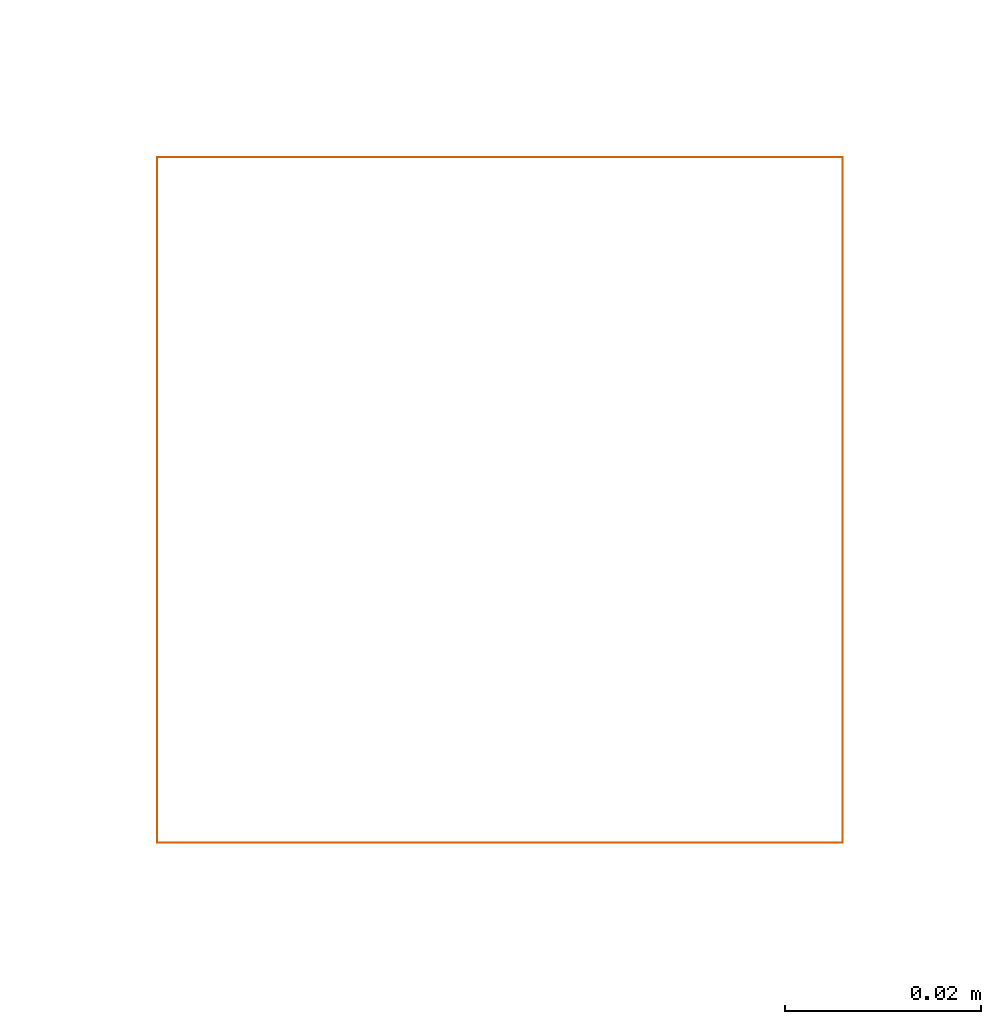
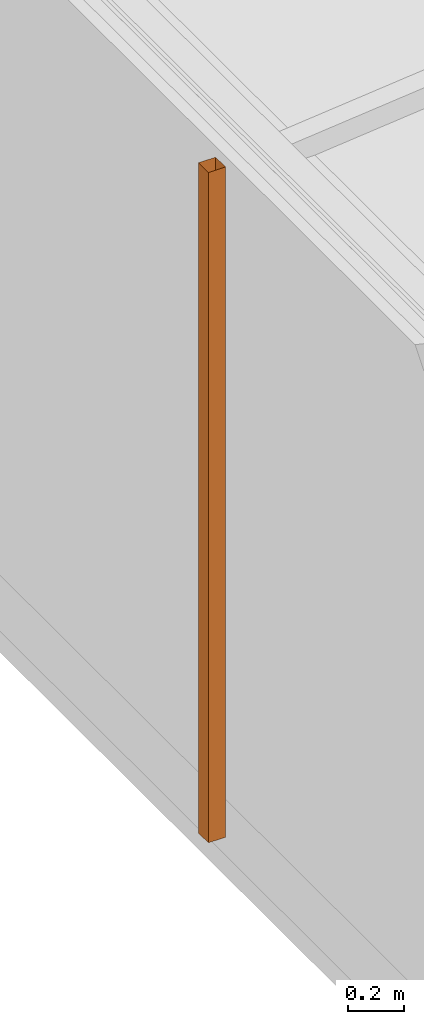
# One storey, part 74 of 112: 1 proxy.
"""IFC2X3 building model written with IfcOpenShell, lengths in millimetres."""

import ifcopenshell
import ifcopenshell.guid

model = None  # the IFC model being written
_history = None  # IfcOwnerHistory: only IFC2X3 demands one
_inside = {}  # id of a spatial element -> (the spatial element, [elements in it])
_under = {}  # id of a project, library or spatial element -> (it, [spatial elements below it])
_declared = {}  # id of a project -> (the project, [libraries it declares])
_typed = {}  # id of a type object -> (the type object, [elements of that type])
_made_of = {}  # id of a material, layer set ... -> (it, [elements and type objects made of it])


def new_model(schema):
    """Start an empty IFC model of exactly this schema.

    Asked for "IFC4X3", IfcOpenShell would pick the latest addendum, in which some entities
    have other attributes; the version numbers below select the first issue.
    IFC2X3 requires an IfcOwnerHistory on every rooted entity: one is made here for all.
    """
    global model, _history
    if schema == "IFC4X3":
        model = ifcopenshell.file(schema_version=(4, 3, 0, 0))
    else:
        model = ifcopenshell.file(schema=schema)
    _inside.clear()
    _under.clear()
    _declared.clear()
    _typed.clear()
    _made_of.clear()
    _history = None
    if model.schema == "IFC2X3":
        org = make("IfcOrganization", Name="unknown")
        user = make(
            "IfcPersonAndOrganization",
            ThePerson=make("IfcPerson", FamilyName="unknown"),
            TheOrganization=org,
        )
        app = make(
            "IfcApplication",
            ApplicationDeveloper=org,
            Version="unknown",
            ApplicationFullName="unknown",
            ApplicationIdentifier="unknown",
        )
        _history = make(
            "IfcOwnerHistory",
            OwningUser=user,
            OwningApplication=app,
            ChangeAction="ADDED",
            CreationDate=0,
        )
    return model


def make(cls, **values):
    """One entity of the class cls with the attributes given. An attribute that is None is left unset."""
    return model.create_entity(
        cls, **{name: value for name, value in values.items() if value is not None}
    )


def entity(cls, *values):
    """Any entity or typed value of the class cls, its attributes in the order of the schema. None: left unset."""
    e = model.create_entity(cls)
    for i, value in enumerate(values):
        if value is not None:
            e[i] = value
    return e


def rooted(cls, **values):
    """An entity with a GlobalId (a new one), such as an element, a storey or a relation."""
    return make(cls, GlobalId=ifcopenshell.guid.new(), OwnerHistory=_history, **values)


def si_unit(unit_type, name, prefix=None):
    """IfcSIUnit, for example si_unit("LENGTHUNIT", "METRE", prefix="MILLI")."""
    return make("IfcSIUnit", UnitType=unit_type, Prefix=prefix, Name=name)


def converted_unit(unit_type, name, factor, base, dimensions=None, offset=None):
    """IfcConversionBasedUnit, such as the inch: factor (a typed value) times the base unit."""
    return make(
        "IfcConversionBasedUnit"
        if offset is None
        else "IfcConversionBasedUnitWithOffset",
        ConversionOffset=offset,
        Dimensions=None
        if dimensions is None
        else entity("IfcDimensionalExponents", *dimensions),
        UnitType=unit_type,
        Name=name,
        ConversionFactor=make(
            "IfcMeasureWithUnit", ValueComponent=factor, UnitComponent=base
        ),
    )


def derived_unit(unit_type, elements):
    """IfcDerivedUnit: a product of units, each with its exponent."""
    return make(
        "IfcDerivedUnit",
        Elements=[
            make("IfcDerivedUnitElement", Unit=unit, Exponent=power)
            for unit, power in elements
        ],
        UnitType=unit_type,
    )


def money_unit(currency):
    """IfcMonetaryUnit."""
    return make("IfcMonetaryUnit", Currency=currency)


def assignment(units):
    """IfcUnitAssignment: the units of a project."""
    return None if units is None else make("IfcUnitAssignment", Units=units)


def point(xyz):
    """IfcCartesianPoint."""
    return None if xyz is None else make("IfcCartesianPoint", Coordinates=xyz)


def direction(xyz):
    """IfcDirection."""
    return None if xyz is None else make("IfcDirection", DirectionRatios=xyz)


def frame(location, z_axis=None, x_axis=None):
    """IfcAxis2Placement3D, a coordinate frame: its origin and axes. An axis left out is left unset."""
    return make(
        "IfcAxis2Placement3D",
        Location=point(location),
        Axis=direction(z_axis),
        RefDirection=direction(x_axis),
    )


def origin_with_axes():
    """The frame at (0, 0, 0) with the z axis (0, 0, 1) and the x axis (1, 0, 0) written out."""
    return frame((0.0, 0.0, 0.0), z_axis=(0.0, 0.0, 1.0), x_axis=(1.0, 0.0, 0.0))


def place(relative_to, where):
    """IfcLocalPlacement: puts the frame where relative to a parent placement (None: the world)."""
    return make(
        "IfcLocalPlacement", PlacementRelTo=relative_to, RelativePlacement=where
    )


def context(
    kind, dimensions, precision=None, world=None, true_north=None, identifier=None
):
    """IfcGeometricRepresentationContext, for example the 3D "Model" context."""
    return make(
        "IfcGeometricRepresentationContext",
        ContextIdentifier=identifier,
        ContextType=kind,
        CoordinateSpaceDimension=dimensions,
        Precision=precision,
        WorldCoordinateSystem=world,
        TrueNorth=true_north,
    )


def subcontext(parent, identifier, kind, view, scale=None):
    """IfcGeometricRepresentationSubContext, for example "Body" below "Model"."""
    return make(
        "IfcGeometricRepresentationSubContext",
        ContextIdentifier=identifier,
        ContextType=kind,
        ParentContext=parent,
        TargetScale=scale,
        TargetView=view,
    )


def project(units=None, contexts=None):
    """IfcProject with its units and contexts."""
    return rooted(
        "IfcProject",
        Name="project",
        RepresentationContexts=contexts,
        UnitsInContext=assignment(units),
    )


def spatial(cls, under=None, at=None, **own):
    """A site, building, storey or space (cls), placed at a placement, below another one or the project."""
    s = rooted(cls, ObjectPlacement=at, **own)
    if under is not None:
        _under.setdefault(under.id(), (under, []))[1].append(s)
    return s


def faces_of(points, faces, orient=None, outer=None):
    """IfcFace entities. A face is a list of loops; a loop is a list of indices into points, from 0.

    orient and outer hold one flag for each loop. By default every Orientation is true, the
    first loop of a face is its IfcFaceOuterBound and the others are IfcFaceBound.
    """
    made = []
    for i, loops in enumerate(faces):
        bounds = []
        for j, loop in enumerate(loops):
            is_outer = j == 0 if outer is None else outer[i][j]
            bounds.append(
                make(
                    "IfcFaceOuterBound" if is_outer else "IfcFaceBound",
                    Bound=make("IfcPolyLoop", Polygon=[points[k] for k in loop]),
                    Orientation=True if orient is None else orient[i][j],
                )
            )
        made.append(make("IfcFace", Bounds=bounds))
    return made


def open_shell(faces, orient=None, outer=None):
    """The faces of one IfcOpenShell. surface_model builds it on its shared points."""
    return ("IfcOpenShell", faces, orient, outer)


def surface_model(cls, points, shells):
    """IfcFaceBasedSurfaceModel or IfcShellBasedSurfaceModel (cls): surfaces that need not close."""
    shared = [point(p) for p in points]
    made = [make(c, CfsFaces=faces_of(shared, fs, o, b)) for c, fs, o, b in shells]
    if cls == "IfcFaceBasedSurfaceModel":
        return make(cls, FbsmFaces=made)
    return make(cls, SbsmBoundary=made)


def shape(context_of_items, identifier, shape_type, items):
    """IfcShapeRepresentation: the items that make up one representation, for example the "Body"."""
    return make(
        "IfcShapeRepresentation",
        ContextOfItems=context_of_items,
        RepresentationIdentifier=identifier,
        RepresentationType=shape_type,
        Items=items,
    )


def source(mapping_origin, context_of_items, identifier, shape_type, items):
    """IfcRepresentationMap: a shape defined once, which mapped items show again and again."""
    return make(
        "IfcRepresentationMap",
        MappingOrigin=mapping_origin,
        MappedRepresentation=shape(context_of_items, identifier, shape_type, items),
    )


def transform(
    local_origin,
    x_axis=None,
    y_axis=None,
    z_axis=None,
    scale=None,
    scale2=None,
    scale3=None,
    uniform=True,
):
    """IfcCartesianTransformationOperator3D, or its non-uniform kind. x_axis, y_axis, z_axis: its Axis1, 2, 3."""
    if uniform:
        return make(
            "IfcCartesianTransformationOperator3D",
            Axis1=direction(x_axis),
            Axis2=direction(y_axis),
            LocalOrigin=point(local_origin),
            Scale=scale,
            Axis3=direction(z_axis),
        )
    return make(
        "IfcCartesianTransformationOperator3DnonUniform",
        Axis1=direction(x_axis),
        Axis2=direction(y_axis),
        LocalOrigin=point(local_origin),
        Scale=scale,
        Axis3=direction(z_axis),
        Scale2=scale2,
        Scale3=scale3,
    )


def mapped(mapping_source, mapping_target):
    """IfcMappedItem: shows the shape of a source again, moved by a transform."""
    return make(
        "IfcMappedItem", MappingSource=mapping_source, MappingTarget=mapping_target
    )


def made_of(thing, what):
    """Note that an element or type object is made of a material, layer set ...; save() writes the relation."""
    if what is not None:
        _made_of.setdefault(what.id(), (what, []))[1].append(thing)
    return thing


def type_object(cls, material=None, **own):
    """A type object (cls), such as IfcWallType, which elements share."""
    return made_of(rooted(cls, **own), material)


def element(
    cls,
    number,
    at=None,
    inside=None,
    cuts=None,
    type_object=None,
    material=None,
    context=None,
    identifier="Body",
    shape_type=None,
    held_by="IfcProductDefinitionShape",
    body=None,
    shapes=None,
    **own,
):
    """One element of the class cls, such as IfcWall. Its Tag is "e" and its number.

    at: its placement. inside: the storey or other place that contains it. cuts: it is an
    opening in that element (IfcRelVoidsElement). A single representation is given by context,
    identifier, shape_type and body (its items); several are given by shapes. held_by: the class
    of the entity that holds the representations. save() writes the other relations.
    """
    e = rooted(cls, Tag="e%d" % number, ObjectPlacement=at, **own)
    if body is not None:
        shapes = [shape(context, identifier, shape_type, body)]
    if shapes is not None:
        e.Representation = make(held_by, Representations=shapes)
    if inside is not None:
        _inside.setdefault(inside.id(), (inside, []))[1].append(e)
    if cuts is not None:
        rooted(
            "IfcRelVoidsElement", RelatingBuildingElement=cuts, RelatedOpeningElement=e
        )
    if type_object is not None:
        _typed.setdefault(type_object.id(), (type_object, []))[1].append(e)
    return made_of(e, material)


def aggregate(whole, parts):
    """IfcRelAggregates: a whole, such as a stair, and the parts it consists of."""
    return rooted("IfcRelAggregates", RelatingObject=whole, RelatedObjects=parts)


def save(model, path):
    """Write the relations noted so far, then the file.

    IfcRelAggregates (storeys below a building ...), IfcRelContainedInSpatialStructure (elements
    in a storey), IfcRelDefinesByType, IfcRelAssociatesMaterial and IfcRelDeclares: one each for
    every whole, place, type object, material and project.
    """
    for whole, parts in _under.values():
        aggregate(whole, parts)
    for where, things in _inside.values():
        rooted(
            "IfcRelContainedInSpatialStructure",
            RelatedElements=things,
            RelatingStructure=where,
        )
    for kind, things in _typed.values():
        rooted("IfcRelDefinesByType", RelatedObjects=things, RelatingType=kind)
    for what, things in _made_of.values():
        rooted("IfcRelAssociatesMaterial", RelatedObjects=things, RelatingMaterial=what)
    for by, libraries in _declared.values():
        rooted("IfcRelDeclares", RelatingContext=by, RelatedDefinitions=libraries)
    model.write(path)


model = new_model("IFC2X3")

# Units and contexts
model_context = context("Model", 3, precision=0.01, world=origin_with_axes(), true_north=direction((0.0, 1.0)))
body_context = subcontext(model_context, "Body", "Model", "MODEL_VIEW")
ifc_project = project(units=[si_unit("LENGTHUNIT", "METRE", prefix="MILLI"), si_unit("AREAUNIT", "SQUARE_METRE"), si_unit("VOLUMEUNIT", "CUBIC_METRE"), converted_unit("PLANEANGLEUNIT", "DEGREE", entity("IfcPlaneAngleMeasure", 0.0174532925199), si_unit("PLANEANGLEUNIT", "RADIAN"), dimensions=[0, 0, 0, 0, 0, 0, 0]), si_unit("SOLIDANGLEUNIT", "STERADIAN"), money_unit("EUR"), converted_unit("TIMEUNIT", "Year", entity("IfcTimeMeasure", 31556926.0), si_unit("TIMEUNIT", "SECOND"), dimensions=[0, 0, 1, 0, 0, 0, 0]), si_unit("MASSUNIT", "GRAM", prefix="KILO"), si_unit("THERMODYNAMICTEMPERATUREUNIT", "DEGREE_CELSIUS"), si_unit("LUMINOUSINTENSITYUNIT", "LUMEN"), si_unit("ENERGYUNIT", "JOULE", prefix="MEGA"), derived_unit("THERMALCONDUCTANCEUNIT", [(si_unit("POWERUNIT", "WATT"), 1), (si_unit("LENGTHUNIT", "METRE"), -1), (si_unit("THERMODYNAMICTEMPERATUREUNIT", "KELVIN"), -1)]), derived_unit("SPECIFICHEATCAPACITYUNIT", [(si_unit("ENERGYUNIT", "JOULE"), 1), (si_unit("MASSUNIT", "GRAM", prefix="KILO"), -1), (si_unit("THERMODYNAMICTEMPERATUREUNIT", "KELVIN"), -1)]), derived_unit("MASSDENSITYUNIT", [(si_unit("MASSUNIT", "GRAM", prefix="KILO"), 1), (si_unit("VOLUMEUNIT", "CUBIC_METRE"), -1)])], contexts=[model_context])

# Site, building, storey
site_placement = place(None, origin_with_axes())
site = spatial("IfcSite", under=ifc_project, at=site_placement, Name="Politse- ja Piirivalveameti ning Päästeameti ühishoone", CompositionType="ELEMENT")
building_placement = place(site_placement, origin_with_axes())
building = spatial("IfcBuilding", under=site, at=building_placement, Name="Politse- ja Piirivalveameti ning Päästeameti ühishoone", CompositionType="ELEMENT")
storey_placement = place(building_placement, origin_with_axes())
storey = spatial("IfcBuildingStorey", under=building, at=storey_placement, Name="Esimene korrus", CompositionType="ELEMENT", Elevation=0.0)

# Proxy
building_element_proxy_type = type_object("IfcBuildingElementProxyType", Name="Downspout 23", PredefinedType="NOTDEFINED")
shared_shape = source(origin_with_axes(), body_context, "Body", "SurfaceModel", [
    surface_model("IfcShellBasedSurfaceModel", [(-35.0, -50.0, 2900.0), (-35.0, 20.0, 2900.0), (-35.0, 20.0, 0.0), (-35.0, -50.0, 0.0), (35.0, 20.0, 2900.0), (35.0, 20.0, 0.0), (35.0, -50.0, 2900.0), (35.0, -50.0, 0.0)], [open_shell([[[0, 1, 2, 3]], [[1, 4, 5, 2]], [[6, 0, 3, 7]], [[4, 6, 7, 5]]])]),
])
proxy_placement = place(storey_placement, frame((46006.1947659, 49949.8510263, 192.551720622), z_axis=(0.0, 0.0, 1.0), x_axis=(0.0, -1.0, 0.0)))
element("IfcBuildingElementProxy", 1, at=proxy_placement, inside=storey, type_object=building_element_proxy_type, Name="VIHMAVEETORU 2", context=body_context, shape_type="MappedRepresentation", body=[
    mapped(shared_shape, transform((0.0, 0.0, 0.0))),
])

save(model, "model.ifc")
